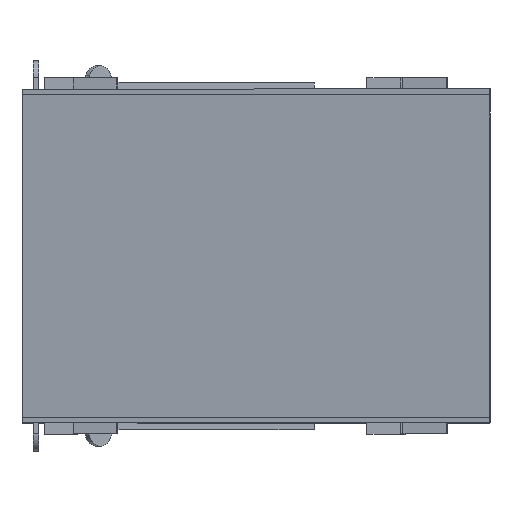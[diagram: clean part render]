
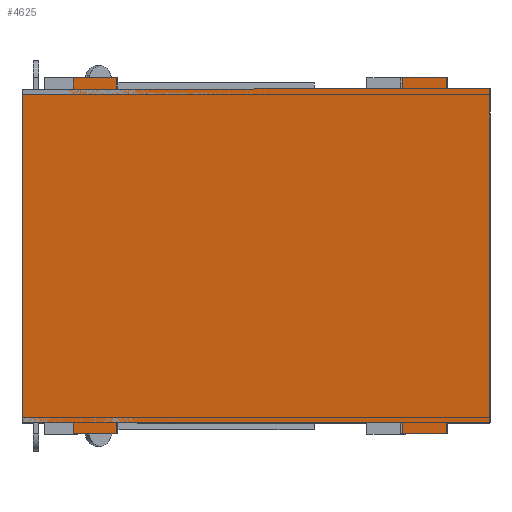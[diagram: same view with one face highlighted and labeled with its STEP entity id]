
A CAD part, top view. The second image highlights one B-rep face of the part: STEP entity #4625.
In plain terms, the highlighted planar face has unit normal (-0.155, 0, 0.988).
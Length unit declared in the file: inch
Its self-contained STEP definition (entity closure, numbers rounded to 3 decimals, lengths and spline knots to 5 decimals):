
#341=FACE_OUTER_BOUND('',#613,.T.);
#613=EDGE_LOOP('',(#4093,#4094,#4095,#4096,#4097,#4098,#4099,#4100,#4101,
#4102,#4103,#4104,#4105,#4106,#4107,#4108,#4109,#4110,#4111,#4112));
#1151=LINE('',#7394,#1757);
#1155=LINE('',#7402,#1761);
#1158=LINE('',#7408,#1764);
#1161=LINE('',#7414,#1767);
#1164=LINE('',#7420,#1770);
#1167=LINE('',#7426,#1773);
#1170=LINE('',#7432,#1776);
#1173=LINE('',#7438,#1779);
#1176=LINE('',#7444,#1782);
#1179=LINE('',#7450,#1785);
#1182=LINE('',#7456,#1788);
#1185=LINE('',#7462,#1791);
#1188=LINE('',#7468,#1794);
#1191=LINE('',#7474,#1797);
#1194=LINE('',#7480,#1800);
#1197=LINE('',#7486,#1803);
#1200=LINE('',#7492,#1806);
#1203=LINE('',#7498,#1809);
#1206=LINE('',#7504,#1812);
#1209=LINE('',#7509,#1815);
#1757=VECTOR('',#5842,0.3937);
#1761=VECTOR('',#5848,0.3937);
#1764=VECTOR('',#5853,0.3937);
#1767=VECTOR('',#5858,0.3937);
#1770=VECTOR('',#5863,0.3937);
#1773=VECTOR('',#5868,0.3937);
#1776=VECTOR('',#5873,0.3937);
#1779=VECTOR('',#5878,0.3937);
#1782=VECTOR('',#5883,0.3937);
#1785=VECTOR('',#5888,0.3937);
#1788=VECTOR('',#5893,0.3937);
#1791=VECTOR('',#5898,0.3937);
#1794=VECTOR('',#5903,0.3937);
#1797=VECTOR('',#5908,0.3937);
#1800=VECTOR('',#5913,0.3937);
#1803=VECTOR('',#5918,0.3937);
#1806=VECTOR('',#5923,0.3937);
#1809=VECTOR('',#5928,0.3937);
#1812=VECTOR('',#5933,0.3937);
#1815=VECTOR('',#5938,0.3937);
#2207=VERTEX_POINT('',#7392);
#2208=VERTEX_POINT('',#7393);
#2211=VERTEX_POINT('',#7401);
#2213=VERTEX_POINT('',#7407);
#2215=VERTEX_POINT('',#7413);
#2217=VERTEX_POINT('',#7419);
#2219=VERTEX_POINT('',#7425);
#2221=VERTEX_POINT('',#7431);
#2223=VERTEX_POINT('',#7437);
#2225=VERTEX_POINT('',#7443);
#2227=VERTEX_POINT('',#7449);
#2229=VERTEX_POINT('',#7455);
#2231=VERTEX_POINT('',#7461);
#2233=VERTEX_POINT('',#7467);
#2235=VERTEX_POINT('',#7473);
#2237=VERTEX_POINT('',#7479);
#2239=VERTEX_POINT('',#7485);
#2241=VERTEX_POINT('',#7491);
#2243=VERTEX_POINT('',#7497);
#2245=VERTEX_POINT('',#7503);
#2819=EDGE_CURVE('',#2207,#2208,#1151,.T.);
#2823=EDGE_CURVE('',#2208,#2211,#1155,.T.);
#2826=EDGE_CURVE('',#2213,#2211,#1158,.T.);
#2829=EDGE_CURVE('',#2213,#2215,#1161,.T.);
#2832=EDGE_CURVE('',#2215,#2217,#1164,.T.);
#2835=EDGE_CURVE('',#2217,#2219,#1167,.T.);
#2838=EDGE_CURVE('',#2221,#2219,#1170,.T.);
#2841=EDGE_CURVE('',#2223,#2221,#1173,.T.);
#2844=EDGE_CURVE('',#2225,#2223,#1176,.T.);
#2847=EDGE_CURVE('',#2227,#2225,#1179,.T.);
#2850=EDGE_CURVE('',#2229,#2227,#1182,.T.);
#2853=EDGE_CURVE('',#2231,#2229,#1185,.T.);
#2856=EDGE_CURVE('',#2233,#2231,#1188,.T.);
#2859=EDGE_CURVE('',#2235,#2233,#1191,.T.);
#2862=EDGE_CURVE('',#2237,#2235,#1194,.T.);
#2865=EDGE_CURVE('',#2239,#2237,#1197,.T.);
#2868=EDGE_CURVE('',#2241,#2239,#1200,.T.);
#2871=EDGE_CURVE('',#2243,#2241,#1203,.T.);
#2874=EDGE_CURVE('',#2245,#2243,#1206,.T.);
#2877=EDGE_CURVE('',#2245,#2207,#1209,.T.);
#4093=ORIENTED_EDGE('',*,*,#2877,.T.);
#4094=ORIENTED_EDGE('',*,*,#2819,.T.);
#4095=ORIENTED_EDGE('',*,*,#2823,.T.);
#4096=ORIENTED_EDGE('',*,*,#2826,.F.);
#4097=ORIENTED_EDGE('',*,*,#2829,.T.);
#4098=ORIENTED_EDGE('',*,*,#2832,.T.);
#4099=ORIENTED_EDGE('',*,*,#2835,.T.);
#4100=ORIENTED_EDGE('',*,*,#2838,.F.);
#4101=ORIENTED_EDGE('',*,*,#2841,.F.);
#4102=ORIENTED_EDGE('',*,*,#2844,.F.);
#4103=ORIENTED_EDGE('',*,*,#2847,.F.);
#4104=ORIENTED_EDGE('',*,*,#2850,.F.);
#4105=ORIENTED_EDGE('',*,*,#2853,.F.);
#4106=ORIENTED_EDGE('',*,*,#2856,.F.);
#4107=ORIENTED_EDGE('',*,*,#2859,.F.);
#4108=ORIENTED_EDGE('',*,*,#2862,.F.);
#4109=ORIENTED_EDGE('',*,*,#2865,.F.);
#4110=ORIENTED_EDGE('',*,*,#2868,.F.);
#4111=ORIENTED_EDGE('',*,*,#2871,.F.);
#4112=ORIENTED_EDGE('',*,*,#2874,.F.);
#4399=PLANE('',#4884);
#4625=ADVANCED_FACE('',(#341),#4399,.T.);
#4884=AXIS2_PLACEMENT_3D('',#7511,#5940,#5941);
#5842=DIRECTION('',(-0.988,0.,-0.155));
#5848=DIRECTION('',(0.,-1.,0.));
#5853=DIRECTION('',(0.988,0.,0.155));
#5858=DIRECTION('',(0.,1.,0.));
#5863=DIRECTION('',(-0.988,0.,-0.155));
#5868=DIRECTION('',(0.,-1.,0.));
#5873=DIRECTION('',(0.988,0.,0.155));
#5878=DIRECTION('',(0.,1.,0.));
#5883=DIRECTION('',(-0.988,0.,-0.155));
#5888=DIRECTION('',(0.,1.,0.));
#5893=DIRECTION('',(-0.988,0.,-0.155));
#5898=DIRECTION('',(0.,-1.,0.));
#5903=DIRECTION('',(-0.988,0.,-0.155));
#5908=DIRECTION('',(0.,1.,0.));
#5913=DIRECTION('',(-0.988,0.,-0.155));
#5918=DIRECTION('',(0.,-1.,0.));
#5923=DIRECTION('',(-0.988,0.,-0.155));
#5928=DIRECTION('',(0.,-1.,0.));
#5933=DIRECTION('',(0.988,0.,0.155));
#5938=DIRECTION('',(0.,1.,0.));
#5940=DIRECTION('center_axis',(-0.155,0.,
0.988));
#5941=DIRECTION('ref_axis',(0.,-1.,0.));
#7392=CARTESIAN_POINT('',(5.04788,4.,2.10559));
#7393=CARTESIAN_POINT('',(4.06,4.,1.95065));
#7394=CARTESIAN_POINT('',(5.04788,4.,2.10559));
#7401=CARTESIAN_POINT('',(4.06,3.75,1.95065));
#7402=CARTESIAN_POINT('',(4.06,4.,1.95065));
#7407=CARTESIAN_POINT('',(-2.36604,3.75,0.94279));
#7408=CARTESIAN_POINT('',(-4.5,3.75,0.6081));
#7413=CARTESIAN_POINT('',(-2.36604,4.,0.94279));
#7414=CARTESIAN_POINT('',(-2.36604,3.625,0.94279));
#7419=CARTESIAN_POINT('',(-3.35396,4.,0.78785));
#7420=CARTESIAN_POINT('',(-2.36604,4.,0.94279));
#7425=CARTESIAN_POINT('',(-3.35396,3.75,0.78785));
#7426=CARTESIAN_POINT('',(-3.35396,4.,0.78785));
#7431=CARTESIAN_POINT('',(-4.5,3.75,0.6081));
#7432=CARTESIAN_POINT('',(-4.5,3.75,0.6081));
#7437=CARTESIAN_POINT('',(-4.5,-3.75,0.6081));
#7438=CARTESIAN_POINT('',(-4.5,-3.75,0.6081));
#7443=CARTESIAN_POINT('',(-3.35396,-3.75,0.78785));
#7444=CARTESIAN_POINT('',(6.,-3.75,2.25492));
#7449=CARTESIAN_POINT('',(-3.35396,-4.,0.78785));
#7450=CARTESIAN_POINT('',(-3.35396,-4.,0.78785));
#7455=CARTESIAN_POINT('',(-2.36604,-4.,0.94279));
#7456=CARTESIAN_POINT('',(-2.36604,-4.,0.94279));
#7461=CARTESIAN_POINT('',(-2.36604,-3.75,0.94279));
#7462=CARTESIAN_POINT('',(-2.36604,-3.625,0.94279));
#7467=CARTESIAN_POINT('',(4.06,-3.75,1.95065));
#7468=CARTESIAN_POINT('',(6.,-3.75,2.25492));
#7473=CARTESIAN_POINT('',(4.06,-4.,1.95065));
#7474=CARTESIAN_POINT('',(4.06,-4.,1.95065));
#7479=CARTESIAN_POINT('',(5.04788,-4.,2.10559));
#7480=CARTESIAN_POINT('',(5.04788,-4.,2.10559));
#7485=CARTESIAN_POINT('',(5.04788,-3.75,2.10559));
#7486=CARTESIAN_POINT('',(5.04788,-3.625,2.10559));
#7491=CARTESIAN_POINT('',(6.,-3.75,2.25492));
#7492=CARTESIAN_POINT('',(6.,-3.75,2.25492));
#7497=CARTESIAN_POINT('',(6.,3.75,2.25492));
#7498=CARTESIAN_POINT('',(6.,3.75,2.25492));
#7503=CARTESIAN_POINT('',(5.04788,3.75,2.10559));
#7504=CARTESIAN_POINT('',(-4.5,3.75,0.6081));
#7509=CARTESIAN_POINT('',(5.04788,3.625,2.10559));
#7511=CARTESIAN_POINT('Origin',(0.75,0.,
1.43151));
